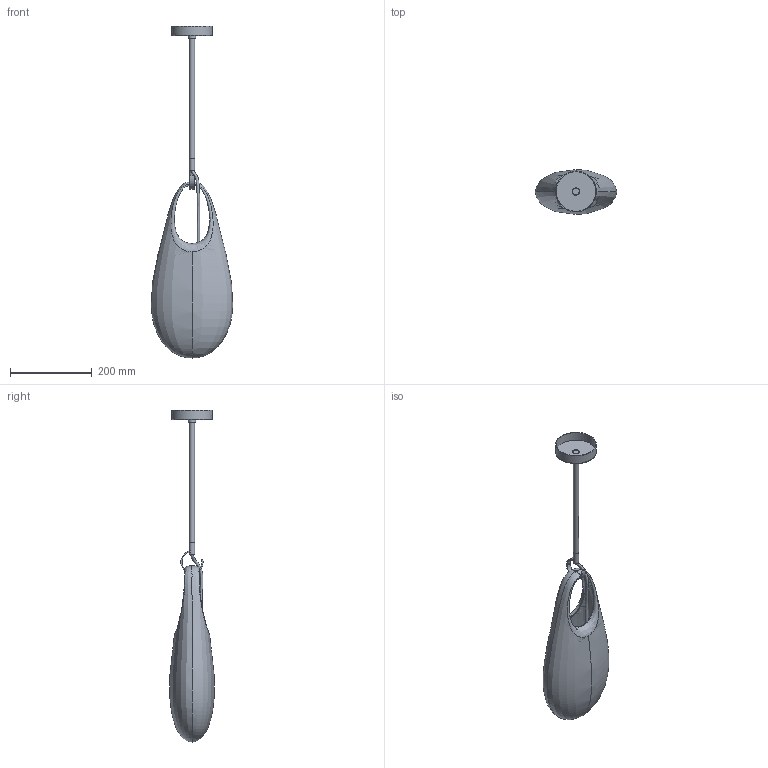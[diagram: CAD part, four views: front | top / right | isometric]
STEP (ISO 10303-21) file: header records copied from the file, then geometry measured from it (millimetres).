
FILE_DESCRIPTION(/* description */ (''),/* implementation_level */ '2;1');
FILE_NAME(/* name */ 'SkLO_Hold_18_Pendant_LT263_3D',/* time_stamp */ '2024-10-21T23:53:11+02:00',/* author */ (''),/* organization */ (''),/* preprocessor_version */ 'ST-DEVELOPER v16.5',/* originating_system */ 'Rhino 7.34',/* authorisation */ '');
FILE_SCHEMA (('CONFIG_CONTROL_DESIGN'));
Length unit declared in the file: millimetre
Products named in the file (1): Document
Bounding box: 199.65 x 109.38 x 813.47 mm (x, y, z)
Volume: 669202.4 mm3; surface area: 366345.3 mm2
Topology: 11 solids, 12 shells, 452 faces, 1143 edges, 724 vertices
Faces by surface type: plane 250, bspline 105, cylinder 97
Full cylindrical faces by diameter (mm): 2.532 x5, 3 x1, 5 x1, 6 x1, 7.5 x1, 8 x3, 10.2 x1, 12 x1, 13 x2, 16.2 x1, 16.572 x1, 18 x1, 26 x1, 97 x1, 100 x1
Entity records: 50982 total; most frequent: CARTESIAN_POINT 43429, ORIENTED_EDGE 2229, EDGE_CURVE 1118, B_SPLINE_CURVE_WITH_KNOTS 800, VERTEX_POINT 722, EDGE_LOOP 499, ADVANCED_FACE 452, FACE_OUTER_BOUND 452
